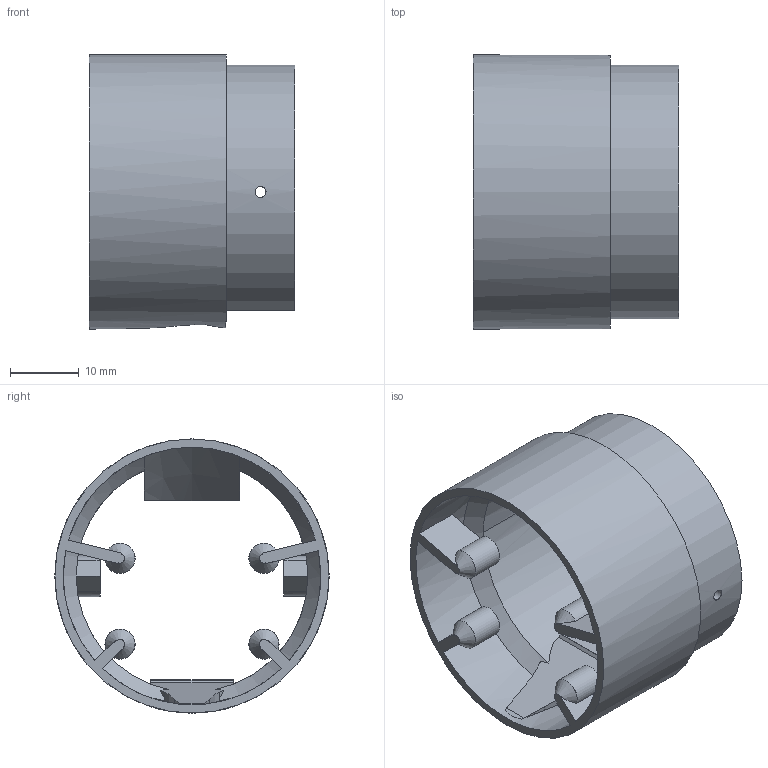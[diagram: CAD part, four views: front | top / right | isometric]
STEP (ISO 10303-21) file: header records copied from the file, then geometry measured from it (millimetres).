
FILE_DESCRIPTION(('Open CASCADE Model'),'2;1');
FILE_NAME('Open CASCADE Shape Model','2026-10-07T11:47:15',('Author'),( 'Open CASCADE'),'Open CASCADE STEP processor 7.9','Open CASCADE 7.9' ,'Unknown');
FILE_SCHEMA(('AUTOMOTIVE_DESIGN { 1 0 10303 214 1 1 1 1 }'));
Length unit declared in the file: millimetre
Products named in the file (1): Open CASCADE STEP translator 7.9 2
Bounding box: 30 x 40 x 40 mm (x, y, z)
Volume: 7837.9 mm3; surface area: 8888.5 mm2
Topology: 1 solids, 1 shells, 138 faces, 397 edges, 265 vertices
Faces by surface type: plane 87, cylinder 24, bspline 20, cone 7
Full cylindrical faces by diameter (mm): 1.6 x6, 37.6 x1, 40 x1
Entity records: 11340 total; most frequent: CARTESIAN_POINT 4174, DIRECTION 1112, ORIENTED_EDGE 794, PCURVE 794, DEFINITIONAL_REPRESENTATION 794, LINE 602, VECTOR 602, EDGE_CURVE 397
